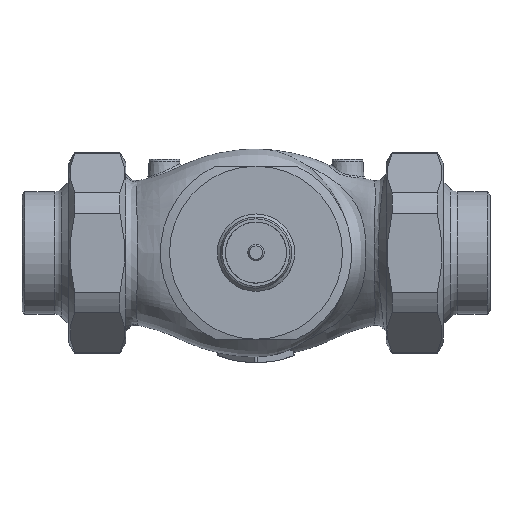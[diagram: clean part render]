
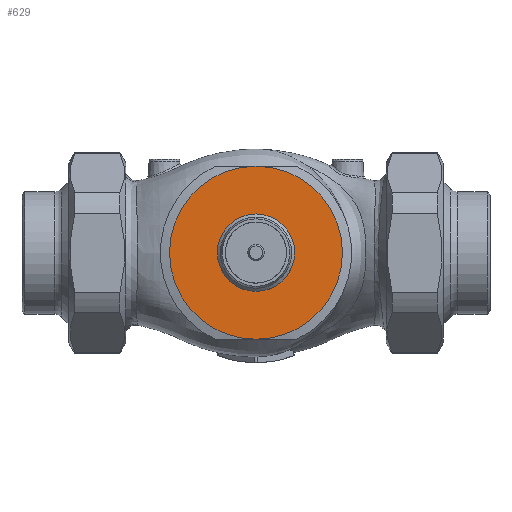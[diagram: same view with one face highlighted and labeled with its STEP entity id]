
A CAD part, top view. The second image highlights one B-rep face of the part: STEP entity #629.
In plain terms, the highlighted planar face has unit normal (0, 0, 1).
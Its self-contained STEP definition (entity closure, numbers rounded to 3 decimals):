
#629=ADVANCED_FACE('',(#875,#876),#719,.T.);
#719=PLANE('',#2667);
#875=FACE_BOUND('',#1134,.T.);
#876=FACE_BOUND('',#1135,.T.);
#1134=EDGE_LOOP('',(#1654));
#1135=EDGE_LOOP('',(#1655,#1656));
#1654=ORIENTED_EDGE('',*,*,#2245,.T.);
#1655=ORIENTED_EDGE('',*,*,#2246,.T.);
#1656=ORIENTED_EDGE('',*,*,#2247,.T.);
#1964=VERTEX_POINT('',#13366);
#1969=VERTEX_POINT('',#13390);
#1972=VERTEX_POINT('',#13408);
#2245=EDGE_CURVE('',#1972,#1972,#2404,.T.);
#2246=EDGE_CURVE('',#1969,#1964,#2405,.T.);
#2247=EDGE_CURVE('',#1964,#1969,#2406,.T.);
#2404=CIRCLE('',#2664,19.);
#2405=CIRCLE('',#2665,42.5);
#2406=CIRCLE('',#2666,42.5);
#2664=AXIS2_PLACEMENT_3D('',#13407,#3242,#3243);
#2665=AXIS2_PLACEMENT_3D('',#13409,#3244,#3245);
#2666=AXIS2_PLACEMENT_3D('',#13410,#3246,#3247);
#2667=AXIS2_PLACEMENT_3D('',#13411,#3248,#3249);
#3242=DIRECTION('',(0.,0.,-1.));
#3243=DIRECTION('',(0.,1.,0.));
#3244=DIRECTION('',(0.,0.,1.));
#3245=DIRECTION('',(-1.,0.,0.));
#3246=DIRECTION('',(0.,0.,1.));
#3247=DIRECTION('',(-1.,0.,0.));
#3248=DIRECTION('',(0.,0.,1.));
#3249=DIRECTION('',(-1.,0.,0.));
#13366=CARTESIAN_POINT('',(0.,-42.5,67.));
#13390=CARTESIAN_POINT('',(0.,42.5,67.));
#13407=CARTESIAN_POINT('',(0.,0.,67.));
#13408=CARTESIAN_POINT('',(0.,19.,67.));
#13409=CARTESIAN_POINT('',(0.,0.,67.));
#13410=CARTESIAN_POINT('',(0.,0.,67.));
#13411=CARTESIAN_POINT('',(-30.5,0.,67.));
